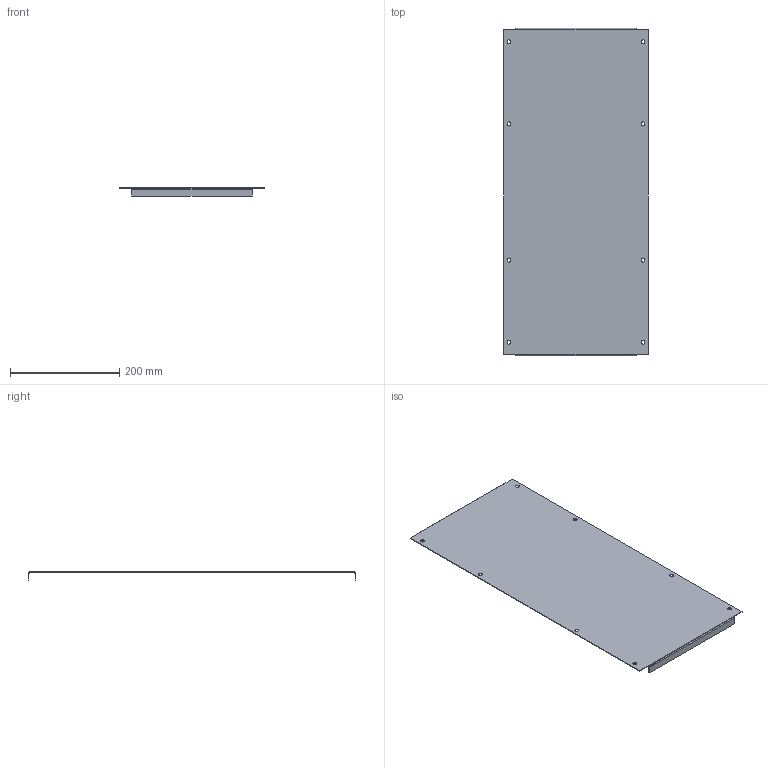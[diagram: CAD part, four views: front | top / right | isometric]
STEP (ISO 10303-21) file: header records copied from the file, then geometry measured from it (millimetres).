
FILE_DESCRIPTION (( 'STEP AP203' ), '1' );
FILE_NAME ('MB 60.30 Ïàíåëü ìîäóëüíàÿ.STEP', '2022-05-12T11:39:15', ( '' ), ( '' ), 'SwSTEP 2.0', 'SolidWorks 2018', '' );
FILE_SCHEMA (( 'CONFIG_CONTROL_DESIGN' ));
Length unit declared in the file: millimetre
Products named in the file (1): MB 60.30 Ïàíåëü ìîäóëüíàÿ
Bounding box: 265 x 599 x 15 mm (x, y, z)
Volume: 196746.6 mm3; surface area: 330258.3 mm2
Topology: 1 solids, 1 shells, 42 faces, 104 edges, 64 vertices
Faces by surface type: plane 22, cylinder 20
Entity records: 1349 total; most frequent: DIRECTION 230, CARTESIAN_POINT 211, ORIENTED_EDGE 208, EDGE_CURVE 104, AXIS2_PLACEMENT_3D 83, VERTEX_POINT 64, LINE 64, VECTOR 64
